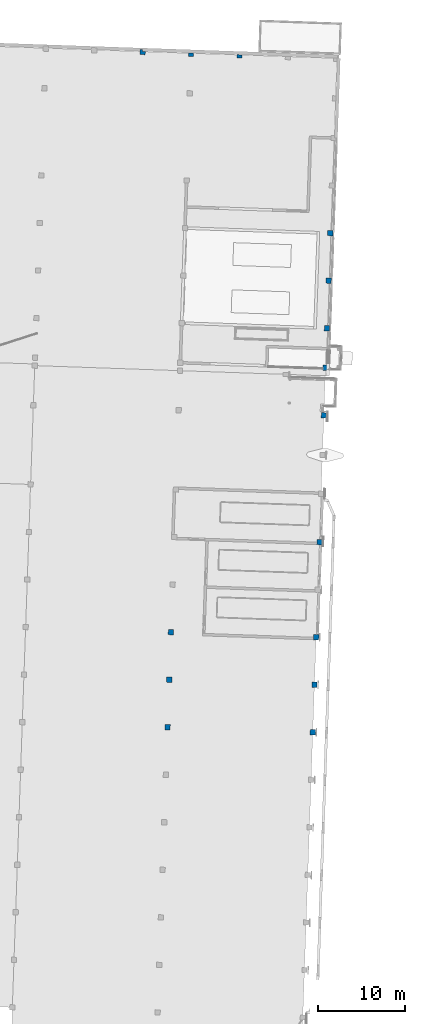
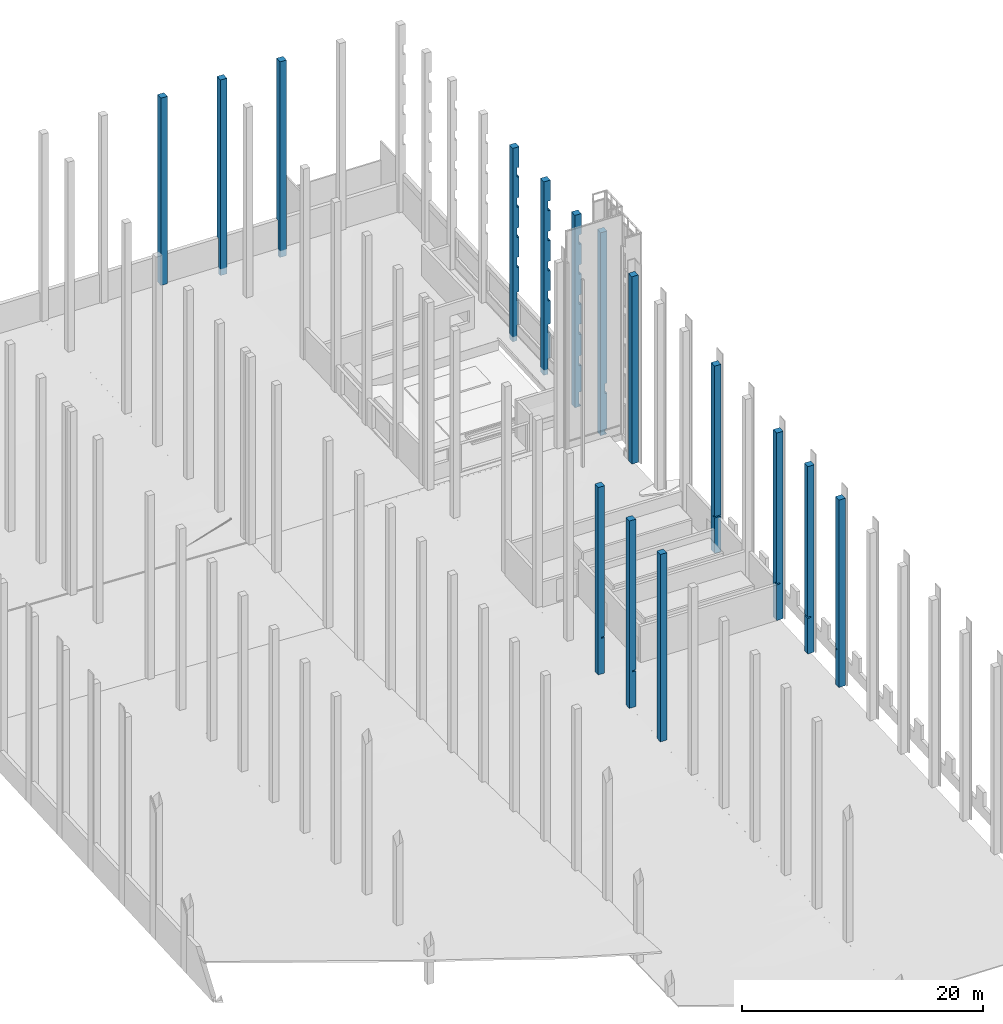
# One storey, part 39 of 44: 15 columns.
"""IFC2X3 building model written with IfcOpenShell, lengths in feet."""

from ifc_helpers import new_model, entity, si_unit, converted_unit, derived_unit, direction, frame, origin, place, context, subcontext, project, spatial, faceted_brep, source, transform, mapped, material, type_object, type_shapes, element, save


model = new_model("IFC2X3")

# Units and contexts
model_context = context("Model", 3, precision=0.0001, world=origin(), true_north=direction((0.999390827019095, 0.0348994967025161)))
body_context = subcontext(model_context, "Body", "Model", "MODEL_VIEW")
ifc_project = project(units=[converted_unit("LENGTHUNIT", "FOOT", entity("IfcRatioMeasure", 0.3048), si_unit("LENGTHUNIT", "METRE"), dimensions=[1, 0, 0, 0, 0, 0, 0]), converted_unit("AREAUNIT", "SQUARE FOOT", entity("IfcRatioMeasure", 0.09290304), si_unit("AREAUNIT", "SQUARE_METRE"), dimensions=[2, 0, 0, 0, 0, 0, 0]), converted_unit("VOLUMEUNIT", "CUBIC FOOT", entity("IfcRatioMeasure", 0.028316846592), si_unit("VOLUMEUNIT", "CUBIC_METRE"), dimensions=[3, 0, 0, 0, 0, 0, 0]), converted_unit("PLANEANGLEUNIT", "DEGREE", entity("IfcRatioMeasure", 0.0174532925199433), si_unit("PLANEANGLEUNIT", "RADIAN"), dimensions=[0, 0, 0, 0, 0, 0, 0]), si_unit("MASSUNIT", "GRAM", prefix="KILO"), si_unit("TIMEUNIT", "SECOND"), si_unit("FREQUENCYUNIT", "HERTZ"), si_unit("THERMODYNAMICTEMPERATUREUNIT", "DEGREE_CELSIUS"), derived_unit("THERMALTRANSMITTANCEUNIT", [(si_unit("MASSUNIT", "GRAM", prefix="KILO"), 1), (si_unit("THERMODYNAMICTEMPERATUREUNIT", "KELVIN"), -1), (si_unit("TIMEUNIT", "SECOND"), -3)]), derived_unit("VOLUMETRICFLOWRATEUNIT", [(si_unit("LENGTHUNIT", "METRE"), 3), (si_unit("TIMEUNIT", "SECOND"), -1)]), si_unit("ELECTRICCURRENTUNIT", "AMPERE"), si_unit("ELECTRICVOLTAGEUNIT", "VOLT"), si_unit("POWERUNIT", "WATT"), si_unit("FORCEUNIT", "NEWTON"), si_unit("ILLUMINANCEUNIT", "LUX"), si_unit("LUMINOUSFLUXUNIT", "LUMEN"), si_unit("LUMINOUSINTENSITYUNIT", "CANDELA"), derived_unit("USERDEFINED", [(si_unit("MASSUNIT", "GRAM", prefix="KILO"), -1), (si_unit("LENGTHUNIT", "METRE"), -2), (si_unit("TIMEUNIT", "SECOND"), 3), (si_unit("LUMINOUSFLUXUNIT", "LUMEN"), 1)]), derived_unit("LINEARVELOCITYUNIT", [(si_unit("LENGTHUNIT", "METRE"), 1), (si_unit("TIMEUNIT", "SECOND"), -1)]), si_unit("PRESSUREUNIT", "PASCAL"), derived_unit("USERDEFINED", [(si_unit("LENGTHUNIT", "METRE"), -2), (si_unit("MASSUNIT", "GRAM", prefix="KILO"), 1), (si_unit("TIMEUNIT", "SECOND"), -2)])], contexts=[model_context])

# Site, building, storey
site_placement = place(None, frame((892.518771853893, 322.38689265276, 0.00393700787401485), z_axis=(0.0, 0.0, 1.0), x_axis=(0.0348994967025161, 0.999390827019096, 0.0)))
site = spatial("IfcSite", under=ifc_project, at=site_placement, Name="Default", CompositionType="ELEMENT")
building_placement = place(site_placement, origin())
building = spatial("IfcBuilding", under=site, at=building_placement, CompositionType="ELEMENT")
storey_placement = place(building_placement, frame((0.0, 0.0, 544.75)))
storey = spatial("IfcBuildingStorey", under=building, at=storey_placement, Name="Exist Garage - Ground Level", CompositionType="ELEMENT", Elevation=544.75)

# Columns
ifc_material = material(Name="Concrete - Cast-in-Place Concrete")
column_type_1 = type_object("IfcColumnType", Name="24 x 24", PredefinedType="COLUMN", material=ifc_material)
shared_shape_1 = source(origin(), body_context, "Body", "Brep", [
    faceted_brep([(0.0, 0.0, 0.0), (0.0, 2.0, 0.0), (2.0, 2.0, 0.0), (2.0, 1.0, 0.0), (1.25, 1.0, 0.0), (1.25, 0.0, 0.0), (2.0, 2.0, 62.25), (2.0, 0.0, 62.25), (2.0, 0.0, 8.97363298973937), (2.0, 1.0, 8.97363298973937), (0.0, 0.0, 62.25), (1.25, 0.0, 8.97363298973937), (0.0, 2.0, 62.25), (1.25, 1.0, 8.97363298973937)], [[[0, 1, 2, 3, 4, 5]], [[6, 7, 8, 9, 3, 2]], [[7, 10, 0, 5, 11, 8]], [[1, 0, 10, 12]], [[2, 1, 12, 6]], [[7, 6, 12, 10]], [[4, 13, 11, 5]], [[13, 4, 3, 9]], [[11, 13, 9, 8]]]),
])
type_shapes(column_type_1, [shared_shape_1])
column_1_placement = place(storey_placement, frame((221.927293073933, 309.097286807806, 0.0)))
element("IfcColumn", 1, at=column_1_placement, inside=storey, type_object=column_type_1, material=ifc_material, Name="Concrete-Square-Column:24 x 24", ObjectType="24 x 24", context=body_context, shape_type="MappedRepresentation", body=[
    mapped(shared_shape_1, transform((0.0, 0.0, 0.0), scale=1.0)),
])
column_type_2 = type_object("IfcColumnType", Name="24 x 24", PredefinedType="COLUMN", material=ifc_material)
shared_shape_2 = source(origin(), body_context, "Body", "Brep", [
    faceted_brep([(0.0, 0.0, 0.0), (0.0, 2.0, 0.0), (1.25, 2.0, 0.0), (1.25, 0.0, 0.0), (2.0, 2.0, 65.0), (2.0, 0.0, 65.0), (2.0, 0.0, 12.3902996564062), (2.0, 0.0, 11.7236329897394), (2.0, 2.0, 11.7236329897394), (2.0, 2.0, 12.3902996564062), (0.0, 0.0, 65.0), (1.25, 0.0, 11.7236329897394), (0.0, 2.0, 65.0), (1.25, 2.0, 11.7236329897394)], [[[0, 1, 2, 3]], [[4, 5, 6, 7, 8, 9]], [[5, 10, 0, 3, 11, 7, 6]], [[1, 0, 10, 12]], [[1, 12, 4, 9, 8, 13, 2]], [[5, 4, 12, 10]], [[13, 11, 3, 2]], [[11, 13, 8, 7]]]),
])
type_shapes(column_type_2, [shared_shape_2])
column_2_placement = place(storey_placement, frame((221.927293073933, 290.763953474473, -2.75)))
element("IfcColumn", 2, at=column_2_placement, inside=storey, type_object=column_type_2, material=ifc_material, Name="Concrete-Square-Column:24 x 24", ObjectType="24 x 24", context=body_context, shape_type="MappedRepresentation", body=[
    mapped(shared_shape_2, transform((0.0, 0.0, 0.0), scale=1.0)),
])
column_type_3 = type_object("IfcColumnType", Name="24 x 24", PredefinedType="COLUMN", material=ifc_material)
shared_shape_3 = source(origin(), body_context, "Body", "Brep", [
    faceted_brep([(0.0, 0.0, 0.0), (0.0, 2.0, 0.0), (1.25, 2.0, 0.0), (1.25, 0.0, 0.0), (2.0, 2.0, 65.0), (2.0, 0.0, 65.0), (2.0, 0.0, 12.3902996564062), (2.0, 0.0, 11.7236329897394), (2.0, 2.0, 11.7236329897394), (2.0, 2.0, 12.3902996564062), (0.0, 0.0, 65.0), (1.25, 0.0, 11.7236329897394), (0.0, 2.0, 65.0), (1.25, 2.0, 11.7236329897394)], [[[0, 1, 2, 3]], [[4, 5, 6, 7, 8, 9]], [[5, 10, 0, 3, 11, 7, 6]], [[1, 0, 10, 12]], [[1, 12, 4, 9, 8, 13, 2]], [[5, 4, 12, 10]], [[13, 11, 3, 2]], [[11, 13, 8, 7]]]),
])
type_shapes(column_type_3, [shared_shape_3])
column_3_placement = place(storey_placement, frame((221.927293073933, 272.430620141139, -2.75)))
element("IfcColumn", 3, at=column_3_placement, inside=storey, type_object=column_type_3, material=ifc_material, Name="Concrete-Square-Column:24 x 24", ObjectType="24 x 24", context=body_context, shape_type="MappedRepresentation", body=[
    mapped(shared_shape_3, transform((0.0, 0.0, 0.0), scale=1.0)),
])
column_type_4 = type_object("IfcColumnType", Name="24 x 24", PredefinedType="COLUMN", material=ifc_material)
shared_shape_4 = source(origin(), body_context, "Body", "Brep", [
    faceted_brep([(0.0, 2.0, 0.0), (2.0, 2.0, 0.0), (2.0, 0.666666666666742, 0.0), (0.0, 0.666666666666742, 0.0), (2.0, 2.0, 64.2698567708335), (2.0, 0.6666666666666, 64.2698567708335), (2.0, 0.0, 64.2698567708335), (2.0, 0.0, 63.6031901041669), (2.0, 0.0, 57.4298567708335), (2.0, 0.666666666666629, 57.4298567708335), (2.0, 0.666666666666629, 54.2698567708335), (2.0, 0.0, 54.2698567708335), (2.0, 0.0, 53.6031901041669), (2.0, 0.0, 47.4298567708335), (2.0, 0.666666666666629, 47.4298567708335), (2.0, 0.666666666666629, 44.2698567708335), (2.0, 0.0, 44.2698567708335), (2.0, 0.0, 43.6031901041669), (2.0, 0.0, 37.4298567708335), (2.0, 0.666666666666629, 37.4298567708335), (2.0, 0.666666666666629, 34.2698567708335), (2.0, 0.0, 34.2698567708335), (2.0, 0.0, 33.6031901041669), (2.0, 0.0, 27.6498567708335), (2.0, 0.666666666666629, 27.6498567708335), (2.0, 0.666666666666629, 24.2698567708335), (2.0, 0.0, 24.2698567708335), (2.0, 0.0, 23.6031901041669), (2.0, 0.0, 15.6552734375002), (2.0, 0.666666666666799, 15.6552734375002), (2.0, 0.666666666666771, 12.7698567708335), (2.0, 0.0, 12.7698567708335), (2.0, 0.0, 5.16569010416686), (2.0, 0.666666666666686, 5.16569010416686), (0.0, 0.0, 64.2698567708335), (0.0, 0.0, 63.6031901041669), (0.0, 0.0, 57.4298567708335), (0.0, 0.666666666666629, 64.2698567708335), (0.0, 2.0, 64.2698567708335), (0.0, 0.666666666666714, 5.16569010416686), (0.0, 0.0, 5.16569010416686), (0.0, 0.0, 13.2177734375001), (0.0, 0.666666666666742, 13.2177734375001), (0.0, 0.666666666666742, 16.1031901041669), (0.0, 0.0, 16.1031901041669), (0.0, 0.0, 23.6031901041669), (0.0, 0.0, 24.2698567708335), (0.0, 0.666666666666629, 24.2698567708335), (0.0, 0.666666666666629, 27.6498567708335), (0.0, 0.0, 27.6498567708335), (0.0, 0.0, 33.6031901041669), (0.0, 0.0, 34.2698567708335), (0.0, 0.666666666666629, 34.2698567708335), (0.0, 0.666666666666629, 37.4298567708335), (0.0, 0.0, 37.4298567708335), (0.0, 0.0, 43.6031901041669), (0.0, 0.0, 44.2698567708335), (0.0, 0.666666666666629, 44.2698567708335), (0.0, 0.666666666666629, 47.4298567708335), (0.0, 0.0, 47.4298567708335), (0.0, 0.0, 53.6031901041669), (0.0, 0.0, 54.2698567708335), (0.0, 0.666666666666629, 54.2698567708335), (0.0, 0.666666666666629, 57.4298567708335), (1.0, 0.666666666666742, 16.1031901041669), (1.0, 0.666666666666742, 13.2177734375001), (1.0, 0.666666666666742, 12.7698567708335), (1.0, 0.666666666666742, 15.6552734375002), (1.0, 0.0, 13.2177734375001), (1.0, 0.0, 16.1031901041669), (1.0, 0.0, 15.6552734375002), (1.0, 0.0, 12.7698567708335)], [[[0, 1, 2, 3]], [[4, 5, 6, 7, 8, 9, 10, 11, 12, 13, 14, 15, 16, 17, 18, 19, 20, 21, 22, 23, 24, 25, 26, 27, 28, 29, 30, 31, 32, 33, 2, 1]], [[6, 34, 35, 36, 8, 7]], [[34, 37, 38, 0, 3, 39, 40, 41, 42, 43, 44, 45, 46, 47, 48, 49, 50, 51, 52, 53, 54, 55, 56, 57, 58, 59, 60, 61, 62, 63, 36, 35]], [[1, 0, 38, 4]], [[6, 5, 4, 38, 37, 34]], [[64, 43, 42, 65, 66, 30, 29, 67]], [[65, 42, 41, 68]], [[64, 69, 44, 43]], [[69, 64, 67, 70]], [[66, 71, 31, 30]], [[67, 29, 28, 70]], [[71, 66, 65, 68]], [[24, 48, 47, 25]], [[25, 47, 46, 26]], [[48, 24, 23, 49]], [[44, 69, 70, 28, 27, 26, 46, 45]], [[19, 53, 52, 20]], [[20, 52, 51, 21]], [[53, 19, 18, 54]], [[49, 23, 22, 21, 51, 50]], [[14, 58, 57, 15]], [[15, 57, 56, 16]], [[58, 14, 13, 59]], [[54, 18, 17, 16, 56, 55]], [[9, 63, 62, 10]], [[10, 62, 61, 11]], [[63, 9, 8, 36]], [[59, 13, 12, 11, 61, 60]], [[71, 68, 41, 40, 32, 31]], [[33, 39, 3, 2]], [[39, 33, 32, 40]]]),
])
type_shapes(column_type_4, [shared_shape_4])
column_4_placement = place(storey_placement, frame((155.927293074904, 235.763953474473, -2.01985677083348)))
element("IfcColumn", 4, at=column_4_placement, inside=storey, type_object=column_type_4, material=ifc_material, Name="Concrete-Square-Column:24 x 24", ObjectType="24 x 24", context=body_context, shape_type="MappedRepresentation", body=[
    mapped(shared_shape_4, transform((0.0, 0.0, 0.0), scale=1.0)),
])
column_type_5 = type_object("IfcColumnType", Name="24 x 24", PredefinedType="COLUMN", material=ifc_material)
shared_shape_5 = source(origin(), body_context, "Body", "Brep", [
    faceted_brep([(0.0, 2.0, 0.0), (2.0, 2.0, 0.0), (2.0, 0.666666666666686, 0.0), (0.0, 0.666666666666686, 0.0), (2.0, 2.0, 64.2698567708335), (2.0, 0.6666666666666, 64.2698567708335), (2.0, 0.0, 64.2698567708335), (2.0, 0.0, 63.6031901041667), (2.0, 0.0, 57.4298567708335), (2.0, 0.666666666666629, 57.4298567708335), (2.0, 0.666666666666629, 54.2698567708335), (2.0, 0.0, 54.2698567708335), (2.0, 0.0, 53.6031901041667), (2.0, 0.0, 47.4298567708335), (2.0, 0.666666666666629, 47.4298567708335), (2.0, 0.666666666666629, 44.2698567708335), (2.0, 0.0, 44.2698567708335), (2.0, 0.0, 43.6031901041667), (2.0, 0.0, 37.4298567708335), (2.0, 0.666666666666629, 37.4298567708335), (2.0, 0.666666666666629, 34.2698567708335), (2.0, 0.0, 34.2698567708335), (2.0, 0.0, 33.6031901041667), (2.0, 0.0, 27.6498567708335), (2.0, 0.666666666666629, 27.6498567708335), (2.0, 0.666666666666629, 24.2698567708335), (2.0, 0.0, 24.2698567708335), (2.0, 0.0, 23.6031901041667), (2.0, 0.0, 16.1031901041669), (2.0, 0.666666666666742, 16.1031901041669), (2.0, 0.666666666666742, 13.2177734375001), (2.0, 0.0, 13.2177734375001), (2.0, 0.0, 5.16569010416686), (2.0, 0.666666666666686, 5.16569010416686), (0.0, 0.0, 64.2698567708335), (0.0, 0.0, 63.6031901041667), (0.0, 0.0, 57.4298567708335), (0.0, 0.666666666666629, 64.2698567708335), (0.0, 2.0, 64.2698567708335), (0.0, 0.666666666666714, 5.16569010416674), (0.0, 0.0, 5.16569010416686), (0.0, 0.0, 13.6552734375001), (0.0, 0.666666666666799, 13.6552734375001), (0.0, 0.666666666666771, 16.540690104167), (0.0, 0.0, 16.5406901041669), (0.0, 0.0, 23.6031901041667), (0.0, 0.0, 24.2698567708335), (0.0, 0.666666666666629, 24.2698567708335), (0.0, 0.666666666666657, 27.6498567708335), (0.0, 0.0, 27.6498567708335), (0.0, 0.0, 33.6031901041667), (0.0, 0.0, 34.2698567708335), (0.0, 0.666666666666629, 34.2698567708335), (0.0, 0.666666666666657, 37.4298567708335), (0.0, 0.0, 37.4298567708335), (0.0, 0.0, 43.6031901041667), (0.0, 0.0, 44.2698567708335), (0.0, 0.666666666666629, 44.2698567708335), (0.0, 0.666666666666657, 47.4298567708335), (0.0, 0.0, 47.4298567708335), (0.0, 0.0, 53.6031901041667), (0.0, 0.0, 54.2698567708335), (0.0, 0.666666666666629, 54.2698567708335), (0.0, 0.666666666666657, 57.4298567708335), (1.0, 0.666666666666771, 13.6552734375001), (1.0, 0.666666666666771, 13.2177734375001), (1.0, 0.666666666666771, 16.1031901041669), (1.0, 0.666666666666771, 16.5406901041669), (1.0, 0.0, 13.6552734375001), (1.0, 0.0, 16.5406901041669), (1.0, 0.0, 16.1031901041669), (1.0, 0.0, 13.2177734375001)], [[[0, 1, 2, 3]], [[4, 5, 6, 7, 8, 9, 10, 11, 12, 13, 14, 15, 16, 17, 18, 19, 20, 21, 22, 23, 24, 25, 26, 27, 28, 29, 30, 31, 32, 33, 2, 1]], [[6, 34, 35, 36, 8, 7]], [[34, 37, 38, 0, 3, 39, 40, 41, 42, 43, 44, 45, 46, 47, 48, 49, 50, 51, 52, 53, 54, 55, 56, 57, 58, 59, 60, 61, 62, 63, 36, 35]], [[1, 0, 38, 4]], [[6, 5, 4, 38, 37, 34]], [[42, 64, 65, 30, 29, 66, 67, 43]], [[64, 42, 41, 68]], [[69, 67, 66, 70]], [[67, 69, 44, 43]], [[65, 71, 31, 30]], [[71, 65, 64, 68]], [[66, 29, 28, 70]], [[48, 47, 25, 24]], [[46, 26, 25, 47]], [[23, 49, 48, 24]], [[44, 69, 70, 28, 27, 26, 46, 45]], [[19, 53, 52, 20]], [[20, 52, 51, 21]], [[53, 19, 18, 54]], [[49, 23, 22, 21, 51, 50]], [[14, 58, 57, 15]], [[15, 57, 56, 16]], [[58, 14, 13, 59]], [[54, 18, 17, 16, 56, 55]], [[9, 63, 62, 10]], [[10, 62, 61, 11]], [[63, 9, 8, 36]], [[59, 13, 12, 11, 61, 60]], [[71, 68, 41, 40, 32, 31]], [[33, 39, 3, 2]], [[39, 33, 32, 40]]]),
])
type_shapes(column_type_5, [shared_shape_5])
column_5_placement = place(storey_placement, frame((137.927293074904, 235.763953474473, -2.01985677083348)))
element("IfcColumn", 5, at=column_5_placement, inside=storey, type_object=column_type_5, material=ifc_material, Name="Concrete-Square-Column:24 x 24", ObjectType="24 x 24", context=body_context, shape_type="MappedRepresentation", body=[
    mapped(shared_shape_5, transform((0.0, 0.0, 0.0), scale=1.0)),
])
column_type_6 = type_object("IfcColumnType", Name="24 x 24", PredefinedType="COLUMN", material=ifc_material)
shared_shape_6 = source(origin(), body_context, "Body", "Brep", [
    faceted_brep([(2.0, 2.0, 0.0), (2.0, 0.0, 0.0), (0.0, 0.0, 0.0), (0.0, 2.0, 0.0), (2.0, 2.0, 63.919921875), (2.0, 0.666666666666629, 63.919921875), (2.0, 0.0, 63.919921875), (2.0, 0.0, 63.2532552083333), (2.0, 0.0, 57.079921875), (2.0, 0.666666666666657, 57.079921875), (2.0, 0.666666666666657, 53.919921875), (2.0, 0.0, 53.919921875), (2.0, 0.0, 53.2532552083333), (2.0, 0.0, 47.079921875), (2.0, 0.666666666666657, 47.079921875), (2.0, 0.666666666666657, 43.919921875), (2.0, 0.0, 43.919921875), (2.0, 0.0, 43.2532552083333), (2.0, 0.0, 37.079921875), (2.0, 0.666666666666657, 37.079921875), (2.0, 0.666666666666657, 33.919921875), (2.0, 0.0, 33.919921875), (2.0, 0.0, 33.2532552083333), (2.0, 0.0, 27.299921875), (2.0, 0.666666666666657, 27.299921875), (2.0, 0.666666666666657, 23.919921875), (2.0, 0.0, 23.919921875), (2.0, 0.0, 16.1907552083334), (2.0, 0.666666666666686, 16.1907552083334), (2.0, 0.666666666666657, 13.3053385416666), (2.0, 0.0, 13.3053385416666), (2.0, 0.0, 4.81575520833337), (2.0, 0.666666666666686, 4.81575520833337), (2.0, 0.666666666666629, 0.00325520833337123), (2.0, 0.0, 0.00325520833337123), (0.0, 0.0, 63.919921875), (0.0, 0.0, 63.2532552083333), (0.0, 0.0, 57.079921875), (0.0, 0.0, 0.00325520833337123), (0.0, 0.666666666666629, 0.00325520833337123), (0.0, 0.666666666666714, 4.81575520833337), (0.0, 0.0, 4.81575520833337), (0.0, 0.0, 13.5345052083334), (0.0, 0.666666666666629, 13.5345052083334), (0.0, 0.666666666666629, 16.869921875), (0.0, 0.0, 16.869921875), (0.0, 0.0, 23.919921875), (0.0, 0.666666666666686, 23.919921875), (0.0, 0.666666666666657, 27.299921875), (0.0, 0.0, 27.299921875), (0.0, 0.0, 33.2532552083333), (0.0, 0.0, 33.919921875), (0.0, 0.666666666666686, 33.919921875), (0.0, 0.666666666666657, 37.079921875), (0.0, 0.0, 37.079921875), (0.0, 0.0, 43.2532552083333), (0.0, 0.0, 43.919921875), (0.0, 0.666666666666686, 43.919921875), (0.0, 0.666666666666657, 47.079921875), (0.0, 0.0, 47.079921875), (0.0, 0.0, 53.2532552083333), (0.0, 0.0, 53.919921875), (0.0, 0.666666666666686, 53.919921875), (0.0, 0.666666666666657, 57.079921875), (0.0, 0.666666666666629, 63.919921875), (0.0, 2.0, 63.919921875), (1.0, 0.666666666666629, 16.869921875), (1.0, 0.666666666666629, 13.5345052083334), (1.0, 0.666666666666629, 13.3053385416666), (1.0, 0.666666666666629, 16.1907552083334), (1.0, 0.0, 13.5345052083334), (1.0, 0.0, 16.869921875), (1.0, 0.0, 16.1907552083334), (1.0, 0.0, 13.3053385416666)], [[[0, 1, 2, 3]], [[1, 0, 4, 5, 6, 7, 8, 9, 10, 11, 12, 13, 14, 15, 16, 17, 18, 19, 20, 21, 22, 23, 24, 25, 26, 27, 28, 29, 30, 31, 32, 33, 34]], [[6, 35, 36, 37, 8, 7]], [[3, 2, 38, 39, 40, 41, 42, 43, 44, 45, 46, 47, 48, 49, 50, 51, 52, 53, 54, 55, 56, 57, 58, 59, 60, 61, 62, 63, 37, 36, 35, 64, 65]], [[0, 3, 65, 4]], [[6, 5, 4, 65, 64, 35]], [[66, 44, 43, 67, 68, 29, 28, 69]], [[67, 43, 42, 70]], [[66, 71, 45, 44]], [[71, 66, 69, 72]], [[68, 73, 30, 29]], [[69, 28, 27, 72]], [[73, 68, 67, 70]], [[48, 47, 25, 24]], [[47, 46, 26, 25]], [[49, 48, 24, 23]], [[45, 71, 72, 27, 26, 46]], [[19, 53, 52, 20]], [[20, 52, 51, 21]], [[53, 19, 18, 54]], [[49, 23, 22, 21, 51, 50]], [[14, 58, 57, 15]], [[15, 57, 56, 16]], [[58, 14, 13, 59]], [[54, 18, 17, 16, 56, 55]], [[9, 63, 62, 10]], [[10, 62, 61, 11]], [[63, 9, 8, 37]], [[59, 13, 12, 11, 61, 60]], [[73, 70, 42, 41, 31, 30]], [[32, 40, 39, 33]], [[33, 39, 38, 34]], [[2, 1, 34, 38]], [[40, 32, 31, 41]]]),
])
type_shapes(column_type_6, [shared_shape_6])
column_6_placement = place(storey_placement, frame((119.927293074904, 235.763953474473, -1.669921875)))
element("IfcColumn", 6, at=column_6_placement, inside=storey, type_object=column_type_6, material=ifc_material, Name="Concrete-Square-Column:24 x 24", ObjectType="24 x 24", context=body_context, shape_type="MappedRepresentation", body=[
    mapped(shared_shape_6, transform((0.0, 0.0, 0.0), scale=1.0)),
])
column_type_7 = type_object("IfcColumnType", Name="24 x 24", PredefinedType="COLUMN", material=ifc_material)
shared_shape_7 = source(origin(), body_context, "Body", "Brep", [
    faceted_brep([(2.0, 2.0, 0.0), (2.0, 0.0, 0.0), (0.0, 0.0, 0.0), (0.0, 2.0, 0.0), (2.0, 2.0, 67.419921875), (2.0, 0.0, 67.419921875), (2.0, 0.0, 57.079921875), (2.0, 0.666666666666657, 57.079921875), (2.0, 0.666666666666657, 53.919921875), (2.0, 0.0, 53.919921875), (2.0, 0.0, 47.079921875), (2.0, 0.666666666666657, 47.079921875), (2.0, 0.666666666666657, 43.919921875), (2.0, 0.0, 43.919921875), (2.0, 0.0, 37.079921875), (2.0, 0.666666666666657, 37.079921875), (2.0, 0.666666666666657, 33.919921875), (2.0, 0.0, 33.919921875), (2.0, 0.0, 27.299921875), (2.0, 0.666666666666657, 27.299921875), (2.0, 0.666666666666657, 23.919921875), (2.0, 0.0, 23.919921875), (2.0, 0.0, 16.869921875), (2.0, 0.666666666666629, 16.869921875), (2.0, 0.666666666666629, 13.5345052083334), (2.0, 0.0, 13.5345052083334), (2.0, 0.0, 1.669921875), (2.0, 0.6666666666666, 1.669921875), (2.0, 0.6666666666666, 0.00325520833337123), (2.0, 0.0, 0.00325520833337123), (0.0, 0.0, 67.419921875), (0.0, 0.0, 16.869921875), (1.0, 0.0, 23.919921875), (1.0, 0.0, 27.299921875), (1.0, 0.0, 33.919921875), (1.0, 0.0, 37.079921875), (1.0, 0.0, 43.919921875), (1.0, 0.0, 47.079921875), (1.0, 0.0, 53.919921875), (1.0, 0.0, 57.079921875), (0.0, 0.0, 0.00325520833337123), (0.0, 0.666666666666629, 0.00325520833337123), (0.0, 0.6666666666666, 1.669921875), (0.0, 0.0, 1.669921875), (0.0, 0.0, 13.5345052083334), (0.0, 0.6666666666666, 13.5345052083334), (0.0, 0.666666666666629, 16.869921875), (0.0, 2.0, 67.419921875), (1.0, 0.666666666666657, 27.299921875), (1.0, 0.666666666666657, 23.919921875), (1.0, 0.666666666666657, 37.079921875), (1.0, 0.666666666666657, 33.919921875), (1.0, 0.666666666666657, 47.079921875), (1.0, 0.666666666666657, 43.919921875), (1.0, 0.666666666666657, 57.079921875), (1.0, 0.666666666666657, 53.919921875), (0.333333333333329, 0.6666666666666, 1.669921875), (0.333333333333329, 0.6666666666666, 0.00325520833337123)], [[[0, 1, 2, 3]], [[1, 0, 4, 5, 6, 7, 8, 9, 10, 11, 12, 13, 14, 15, 16, 17, 18, 19, 20, 21, 22, 23, 24, 25, 26, 27, 28, 29]], [[5, 30, 31, 22, 21, 32, 33, 18, 17, 34, 35, 14, 13, 36, 37, 10, 9, 38, 39, 6]], [[3, 2, 40, 41, 42, 43, 44, 45, 46, 31, 30, 47]], [[0, 3, 47, 4]], [[5, 4, 47, 30]], [[24, 23, 46, 45]], [[25, 24, 45, 44]], [[23, 22, 31, 46]], [[48, 49, 20, 19]], [[49, 32, 21, 20]], [[49, 48, 33, 32]], [[33, 48, 19, 18]], [[50, 51, 16, 15]], [[51, 34, 17, 16]], [[51, 50, 35, 34]], [[35, 50, 15, 14]], [[52, 53, 12, 11]], [[53, 36, 13, 12]], [[53, 52, 37, 36]], [[37, 52, 11, 10]], [[54, 55, 8, 7]], [[55, 38, 9, 8]], [[55, 54, 39, 38]], [[39, 54, 7, 6]], [[28, 27, 56, 42, 41, 57]], [[28, 57, 41, 40, 29]], [[42, 56, 27, 26, 43]], [[25, 44, 43, 26]], [[2, 1, 29, 40]]]),
])
type_shapes(column_type_7, [shared_shape_7])
column_7_placement = place(storey_placement, frame((104.927293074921, 235.763953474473, -1.669921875)))
element("IfcColumn", 7, at=column_7_placement, inside=storey, type_object=column_type_7, material=ifc_material, Name="Concrete-Square-Column:24 x 24", ObjectType="24 x 24", context=body_context, shape_type="MappedRepresentation", body=[
    mapped(shared_shape_7, transform((0.0, 0.0, 0.0), scale=1.0)),
])
column_type_8 = type_object("IfcColumnType", Name="24 x 24", PredefinedType="COLUMN", material=ifc_material)
shared_shape_8 = source(origin(), body_context, "Body", "Brep", [
    faceted_brep([(2.0, 2.0, 0.0), (2.0, 0.0, 0.0), (0.0, 0.0, 0.0), (0.0, 2.0, 0.0), (2.0, 2.0, 62.25), (2.0, 0.0, 62.25), (0.0, 0.0, 62.25), (0.0, 0.0, 12.25), (1.0, 0.0, 12.25), (1.0, 0.0, 11.8333333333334), (0.0, 0.0, 11.8333333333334), (0.0, 1.0, 11.8333333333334), (0.0, 1.0, 12.25), (0.0, 2.0, 62.25), (1.0, 1.0, 11.8333333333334), (1.0, 1.0, 12.25)], [[[0, 1, 2, 3]], [[1, 0, 4, 5]], [[2, 1, 5, 6, 7, 8, 9, 10]], [[3, 2, 10, 11, 12, 7, 6, 13]], [[0, 3, 13, 4]], [[5, 4, 13, 6]], [[14, 11, 10, 9]], [[15, 14, 9, 8]], [[14, 15, 12, 11]], [[12, 15, 8, 7]]]),
])
type_shapes(column_type_8, [shared_shape_8])
column_8_placement = place(storey_placement, frame((2.92725423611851, 290.763953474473, 0.0)))
element("IfcColumn", 8, at=column_8_placement, inside=storey, type_object=column_type_8, material=ifc_material, Name="Concrete-Square-Column:24 x 24", ObjectType="24 x 24", context=body_context, shape_type="MappedRepresentation", body=[
    mapped(shared_shape_8, transform((0.0, 0.0, 0.0), scale=1.0)),
])
column_type_9 = type_object("IfcColumnType", Name="24 x 24", PredefinedType="COLUMN", material=ifc_material)
shared_shape_9 = source(origin(), body_context, "Body", "Brep", [
    faceted_brep([(2.0, 2.0, 0.0), (2.0, 0.0, 0.0), (0.0, 0.0, 0.0), (0.0, 2.0, 0.0), (2.0, 2.0, 62.25), (2.0, 0.0, 62.25), (2.0, 0.0, 12.25), (2.0, 1.0, 12.25), (2.0, 1.0, 11.8333333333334), (2.0, 0.0, 11.8333333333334), (0.0, 0.0, 62.25), (0.0, 0.0, 12.25), (0.0, 0.0, 11.8333333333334), (0.0, 1.0, 11.8333333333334), (0.0, 1.0, 12.25), (0.0, 2.0, 62.25), (1.0, 1.0, 12.25)], [[[0, 1, 2, 3]], [[1, 0, 4, 5, 6, 7, 8, 9]], [[5, 10, 11, 6]], [[3, 2, 12, 13, 14, 11, 10, 15]], [[0, 3, 15, 4]], [[5, 4, 15, 10]], [[8, 13, 12, 9]], [[13, 8, 7, 16, 14]], [[2, 1, 9, 12]], [[14, 16, 7, 6, 11]]]),
])
type_shapes(column_type_9, [shared_shape_9])
column_9_placement = place(storey_placement, frame((-15.0727457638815, 290.763953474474, 0.0)))
element("IfcColumn", 9, at=column_9_placement, inside=storey, type_object=column_type_9, material=ifc_material, Name="Concrete-Square-Column:24 x 24", ObjectType="24 x 24", context=body_context, shape_type="MappedRepresentation", body=[
    mapped(shared_shape_9, transform((0.0, 0.0, 0.0), scale=1.0)),
])
column_type_10 = type_object("IfcColumnType", Name="24 x 24", PredefinedType="COLUMN", material=ifc_material)
shared_shape_10 = source(origin(), body_context, "Body", "Brep", [
    faceted_brep([(2.0, 2.0, 0.0), (2.0, 0.0, 0.0), (0.0, 0.0, 0.0), (0.0, 2.0, 0.0), (2.0, 2.0, 62.25), (2.0, 0.0, 62.25), (2.0, 0.0, 12.25), (2.0, 1.0, 12.25), (2.0, 1.0, 11.8333333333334), (2.0, 0.0, 11.8333333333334), (1.0, 0.0, 11.8333333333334), (1.0, 0.0, 12.25), (0.0, 0.0, 62.25), (0.0, 2.0, 62.25), (1.0, 1.0, 11.8333333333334), (1.0, 1.0, 12.25)], [[[0, 1, 2, 3]], [[1, 0, 4, 5, 6, 7, 8, 9]], [[2, 1, 9, 10, 11, 6, 5, 12]], [[3, 2, 12, 13]], [[0, 3, 13, 4]], [[5, 4, 13, 12]], [[8, 14, 10, 9]], [[14, 15, 11, 10]], [[15, 14, 8, 7]], [[15, 7, 6, 11]]]),
])
type_shapes(column_type_10, [shared_shape_10])
column_10_placement = place(storey_placement, frame((-33.0727457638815, 290.763953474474, 0.0)))
element("IfcColumn", 10, at=column_10_placement, inside=storey, type_object=column_type_10, material=ifc_material, Name="Concrete-Square-Column:24 x 24", ObjectType="24 x 24", context=body_context, shape_type="MappedRepresentation", body=[
    mapped(shared_shape_10, transform((0.0, 0.0, 0.0), scale=1.0)),
])
column_type_11 = type_object("IfcColumnType", Name="24 x 24", PredefinedType="COLUMN", material=ifc_material)
shared_shape_11 = source(origin(), body_context, "Body", "Brep", [
    faceted_brep([(2.0, 0.0, 0.0), (0.0, 0.0, 0.0), (0.0, 1.0, 0.0), (0.0, 1.95833333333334, 0.0), (2.0, 1.95833333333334, 0.0), (2.0, 2.0, 62.25), (2.0, 0.0, 62.25), (2.0, 1.95833333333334, 0.5), (2.0, 2.0, 0.5), (0.0, 0.0, 62.25), (0.0, 2.0, 62.25), (0.0, 2.0, 0.5), (0.0, 1.95833333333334, 0.5)], [[[0, 1, 2, 3, 4]], [[5, 6, 0, 4, 7, 8]], [[1, 0, 6, 9]], [[1, 9, 10, 11, 12, 3, 2]], [[10, 5, 8, 11]], [[6, 5, 10, 9]], [[7, 12, 11, 8]], [[12, 7, 4, 3]]]),
])
type_shapes(column_type_11, [shared_shape_11])
column_11_placement = place(storey_placement, frame((86.9272968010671, 235.763953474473, 0.0)))
element("IfcColumn", 11, at=column_11_placement, inside=storey, type_object=column_type_11, material=ifc_material, Name="Concrete-Square-Column:24 x 24", ObjectType="24 x 24", context=body_context, shape_type="MappedRepresentation", body=[
    mapped(shared_shape_11, transform((0.0, 0.0, 0.0), scale=1.0)),
])
column_type_12 = type_object("IfcColumnType", Name="24 x 24", PredefinedType="COLUMN", material=ifc_material)
shared_shape_12 = source(origin(), body_context, "Body", "Brep", [
    faceted_brep([(2.0, 2.0, 0.0), (2.0, 0.0, 0.0), (0.0, 0.0, 0.0), (0.0, 2.0, 0.0), (2.0, 2.0, 62.25), (2.0, 0.0, 62.25), (0.0, 0.0, 62.25), (0.0, 0.0, 12.25), (1.0, 0.0, 12.25), (1.0, 0.0, 11.8333333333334), (0.0, 0.0, 11.8333333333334), (0.0, 2.0, 62.25), (0.0, 2.0, 12.25), (0.0, 2.0, 11.8333333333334), (1.0, 2.0, 11.8333333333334), (1.0, 2.0, 12.25)], [[[0, 1, 2, 3]], [[1, 0, 4, 5]], [[2, 1, 5, 6, 7, 8, 9, 10]], [[6, 11, 12, 7]], [[0, 3, 13, 14, 15, 12, 11, 4]], [[5, 4, 11, 6]], [[9, 14, 13, 10]], [[15, 8, 7, 12]], [[14, 9, 8, 15]], [[3, 2, 10, 13]]]),
])
type_shapes(column_type_12, [shared_shape_12])
column_12_placement = place(storey_placement, frame((38.9272542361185, 235.763953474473, 0.0)))
element("IfcColumn", 12, at=column_12_placement, inside=storey, type_object=column_type_12, material=ifc_material, Name="Concrete-Square-Column:24 x 24", ObjectType="24 x 24", context=body_context, shape_type="MappedRepresentation", body=[
    mapped(shared_shape_12, transform((0.0, 0.0, 0.0), scale=1.0)),
])
column_type_13 = type_object("IfcColumnType", Name="24 x 24", PredefinedType="COLUMN", material=ifc_material)
shared_shape_13 = source(origin(), body_context, "Body", "Brep", [
    faceted_brep([(2.0, 2.0, 0.0), (2.0, 0.0, 0.0), (0.0, 0.0, 0.0), (0.0, 2.0, 0.0), (2.0, 2.0, 11.8333333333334), (2.0, 2.0, 12.25), (2.0, 2.0, 62.25), (2.0, 0.0, 62.25), (2.0, 0.0, 12.25), (2.0, 0.0, 11.8333333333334), (0.0, 0.0, 62.25), (0.0, 2.0, 62.25), (0.0, 2.0, 12.25), (0.0, 1.0, 12.25), (0.0, 1.0, 11.8333333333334), (0.0, 2.0, 11.8333333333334), (1.0, 2.0, 11.8333333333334), (1.0, 2.0, 12.25), (1.0, 1.0, 11.8333333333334), (1.0, 1.0, 12.25)], [[[0, 1, 2, 3]], [[1, 0, 4, 5, 6, 7, 8, 9]], [[2, 1, 9, 8, 7, 10]], [[3, 2, 10, 11, 12, 13, 14, 15]], [[0, 3, 15, 16, 17, 12, 11, 6, 5, 4]], [[7, 6, 11, 10]], [[14, 18, 16, 15]], [[18, 19, 17, 16]], [[19, 18, 14, 13]], [[17, 19, 13, 12]]]),
])
type_shapes(column_type_13, [shared_shape_13])
column_13_placement = place(storey_placement, frame((2.92725423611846, 235.763953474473, 0.0)))
element("IfcColumn", 13, at=column_13_placement, inside=storey, type_object=column_type_13, material=ifc_material, Name="Concrete-Square-Column:24 x 24", ObjectType="24 x 24", context=body_context, shape_type="MappedRepresentation", body=[
    mapped(shared_shape_13, transform((0.0, 0.0, 0.0), scale=1.0)),
])
column_type_14 = type_object("IfcColumnType", Name="24 x 24", PredefinedType="COLUMN", material=ifc_material)
shared_shape_14 = source(origin(), body_context, "Body", "Brep", [
    faceted_brep([(2.0, 2.0, 0.0), (2.0, 0.0, 0.0), (0.0, 0.0, 0.0), (0.0, 2.0, 0.0), (2.0, 2.0, 11.8333333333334), (2.0, 1.0, 11.8333333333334), (2.0, 1.0, 12.25), (2.0, 2.0, 12.25), (2.0, 2.0, 62.25), (2.0, 0.0, 62.25), (0.0, 0.0, 62.25), (0.0, 2.0, 62.25), (0.0, 2.0, 12.25), (0.0, 1.0, 12.25), (0.0, 1.0, 11.8333333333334), (0.0, 2.0, 11.8333333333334), (1.0, 1.0, 12.25)], [[[0, 1, 2, 3]], [[1, 0, 4, 5, 6, 7, 8, 9]], [[2, 1, 9, 10]], [[3, 2, 10, 11, 12, 13, 14, 15]], [[11, 8, 7, 12]], [[9, 8, 11, 10]], [[14, 5, 4, 15]], [[5, 14, 13, 16, 6]], [[0, 3, 15, 4]], [[6, 16, 13, 12, 7]]]),
])
type_shapes(column_type_14, [shared_shape_14])
column_14_placement = place(storey_placement, frame((-15.0727457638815, 235.763953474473, 0.0)))
element("IfcColumn", 14, at=column_14_placement, inside=storey, type_object=column_type_14, material=ifc_material, Name="Concrete-Square-Column:24 x 24", ObjectType="24 x 24", context=body_context, shape_type="MappedRepresentation", body=[
    mapped(shared_shape_14, transform((0.0, 0.0, 0.0), scale=1.0)),
])
column_type_15 = type_object("IfcColumnType", Name="24 x 24", PredefinedType="COLUMN", material=ifc_material)
shared_shape_15 = source(origin(), body_context, "Body", "Brep", [
    faceted_brep([(2.0, 2.0, 0.0), (2.0, 0.0, 0.0), (0.0, 0.0, 0.0), (0.0, 2.0, 0.0), (2.0, 2.0, 11.8333333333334), (2.0, 1.0, 11.8333333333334), (2.0, 1.0, 12.25), (2.0, 2.0, 12.25), (2.0, 2.0, 62.25), (2.0, 0.0, 62.25), (0.0, 0.0, 62.25), (0.0, 2.0, 62.25), (1.0, 2.0, 12.25), (1.0, 2.0, 11.8333333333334), (1.0, 1.0, 11.8333333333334), (1.0, 1.0, 12.25)], [[[0, 1, 2, 3]], [[1, 0, 4, 5, 6, 7, 8, 9]], [[2, 1, 9, 10]], [[3, 2, 10, 11]], [[0, 3, 11, 8, 7, 12, 13, 4]], [[9, 8, 11, 10]], [[13, 14, 5, 4]], [[14, 15, 6, 5]], [[15, 14, 13, 12]], [[6, 15, 12, 7]]]),
])
type_shapes(column_type_15, [shared_shape_15])
column_15_placement = place(storey_placement, frame((-33.0727457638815, 235.763953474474, 0.0)))
element("IfcColumn", 15, at=column_15_placement, inside=storey, type_object=column_type_15, material=ifc_material, Name="Concrete-Square-Column:24 x 24", ObjectType="24 x 24", context=body_context, shape_type="MappedRepresentation", body=[
    mapped(shared_shape_15, transform((0.0, 0.0, 0.0), scale=1.0)),
])

save(model, "model.ifc")
